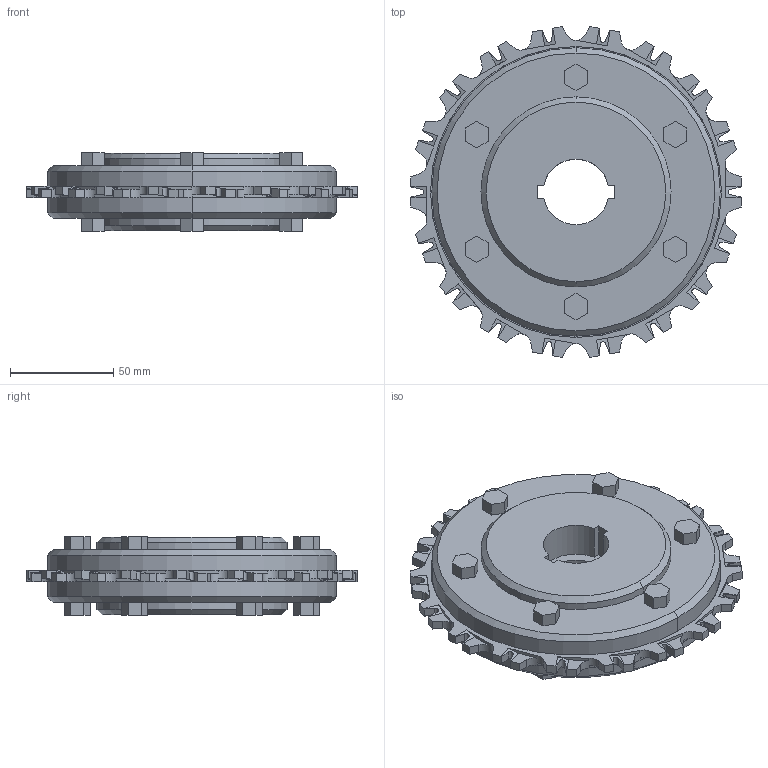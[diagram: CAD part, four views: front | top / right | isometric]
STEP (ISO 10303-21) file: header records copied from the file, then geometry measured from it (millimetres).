
FILE_DESCRIPTION((''),'2;1');
FILE_NAME('S900_SPL_PLASTIC_61_ROUND_ASM','2008-12-12T',('jmumphre'),(''),'PRO/ENGINEER BY PARAMETRIC TECHNOLOGY CORPORATION, 2008150','PRO/ENGINEER BY PARAMETRIC TECHNOLOGY CORPORATION, 2008150','');
FILE_SCHEMA(('CONFIG_CONTROL_DESIGN'));
Length unit declared in the file: inch
Products named in the file (5): S900_TP_PLASTIC_61X270_SQ_AF1; JOINING_PLATE_6_ROUND_AF0; JOINING_PLATE_6_ROUND_AF1; BOLTS_N_NUTS_4-376X1-000_AF0; S900_SPL_PLASTIC_61_ROUND_ASM
Assembly tree (4 placements, depth 2):
  S900_SPL_PLASTIC_61_ROUND_ASM
    S900_TP_PLASTIC_61X270_SQ_AF1
    JOINING_PLATE_6_ROUND_AF0
    JOINING_PLATE_6_ROUND_AF1
    BOLTS_N_NUTS_4-376X1-000_AF0
Bounding box: 160.21 x 160.31 x 38.1 mm (x, y, z)
Volume: 444587.1 mm3; surface area: 116784.7 mm2
Topology: 9 solids, 9 shells, 450 faces, 1240 edges, 824 vertices
Faces by surface type: plane 338, cylinder 100, cone 12
Entity records: 14863 total; most frequent: CARTESIAN_POINT 3029, ORIENTED_EDGE 2480, DIRECTION 2338, EDGE_CURVE 1240, VECTOR 988, LINE 988, VERTEX_POINT 824, AXIS2_PLACEMENT_3D 675
